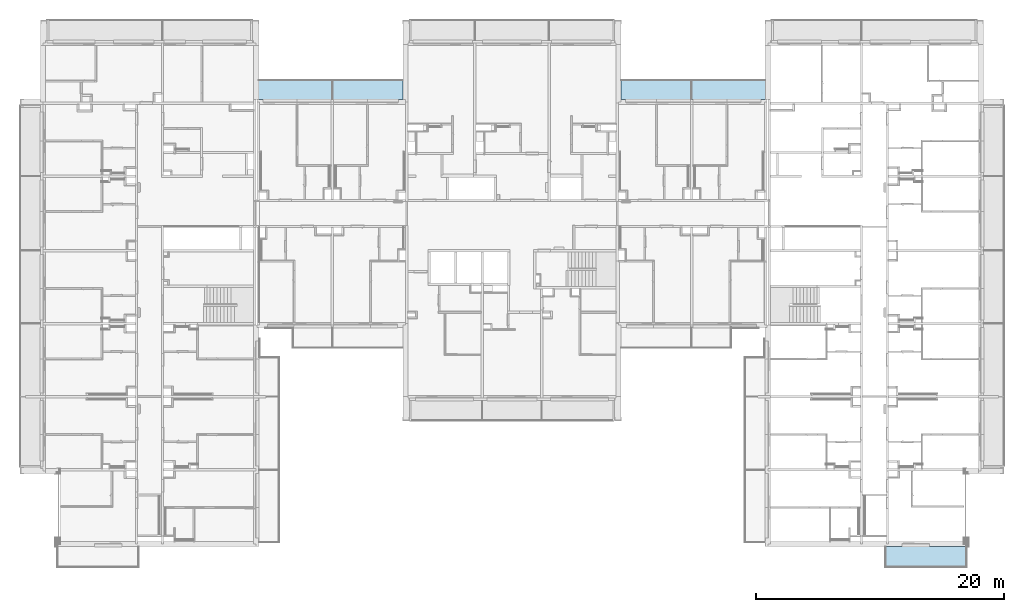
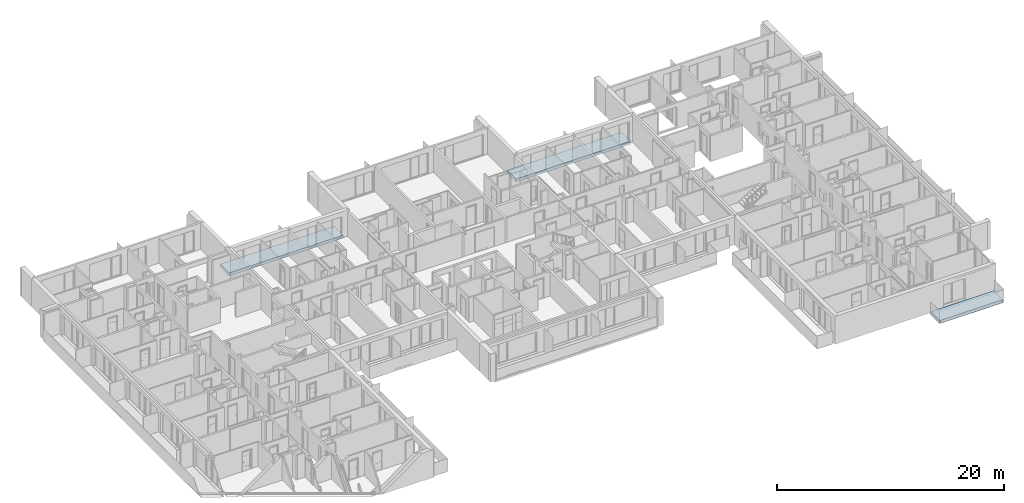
# One storey, part 2 of 66: 3 slabs.
"""IFC2X3 building model written with IfcOpenShell, lengths in millimetres."""

from ifc_helpers import new_model, entity, si_unit, converted_unit, derived_unit, money_unit, direction, frame, origin_with_axes, place, context, subcontext, project, spatial, faceted_brep, material, material_list, type_object, element, save


model = new_model("IFC2X3")

# Units and contexts
model_context = context("Model", 3, precision=0.01, world=origin_with_axes(), true_north=direction((0.34421633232, 0.938890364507)))
body_context = subcontext(model_context, "Body", "Model", "MODEL_VIEW")
ifc_project = project(units=[si_unit("LENGTHUNIT", "METRE", prefix="MILLI"), si_unit("AREAUNIT", "SQUARE_METRE"), si_unit("VOLUMEUNIT", "CUBIC_METRE"), converted_unit("PLANEANGLEUNIT", "DEGREE", entity("IfcPlaneAngleMeasure", 0.0174532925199), si_unit("PLANEANGLEUNIT", "RADIAN"), dimensions=[0, 0, 0, 0, 0, 0, 0]), si_unit("SOLIDANGLEUNIT", "STERADIAN"), money_unit("USD"), converted_unit("TIMEUNIT", "Year", entity("IfcTimeMeasure", 31556926.0), si_unit("TIMEUNIT", "SECOND"), dimensions=[0, 0, 1, 0, 0, 0, 0]), si_unit("MASSUNIT", "GRAM", prefix="KILO"), si_unit("THERMODYNAMICTEMPERATUREUNIT", "DEGREE_CELSIUS"), si_unit("LUMINOUSINTENSITYUNIT", "LUMEN"), si_unit("ENERGYUNIT", "JOULE", prefix="MEGA"), derived_unit("THERMALCONDUCTANCEUNIT", [(si_unit("POWERUNIT", "WATT"), 1), (si_unit("LENGTHUNIT", "METRE"), -1), (si_unit("THERMODYNAMICTEMPERATUREUNIT", "KELVIN"), -1)]), derived_unit("SPECIFICHEATCAPACITYUNIT", [(si_unit("ENERGYUNIT", "JOULE"), 1), (si_unit("MASSUNIT", "GRAM", prefix="KILO"), -1), (si_unit("THERMODYNAMICTEMPERATUREUNIT", "KELVIN"), -1)]), derived_unit("MASSDENSITYUNIT", [(si_unit("MASSUNIT", "GRAM", prefix="KILO"), 1), (si_unit("VOLUMEUNIT", "CUBIC_METRE"), -1)])], contexts=[model_context])

# Site, building, storey
site_placement = place(None, origin_with_axes())
site = spatial("IfcSite", under=ifc_project, at=site_placement, Name="USTRONIE MORSKIE", CompositionType="ELEMENT")
building_placement = place(site_placement, origin_with_axes())
building = spatial("IfcBuilding", under=site, at=building_placement, Name="Budynek", CompositionType="ELEMENT")
storey_placement = place(building_placement, frame((0.0, 0.0, 10000.0), z_axis=(0.0, 0.0, 1.0), x_axis=(1.0, 0.0, 0.0)))
storey = spatial("IfcBuildingStorey", under=building, at=storey_placement, Name="PIĘTRO 3", CompositionType="ELEMENT", Elevation=10000.0)

# Slabs
ifc_material_1 = material(Name="Płytki okładzinowe")
ifc_material_2 = material(Name="Pustka powietrzna")
ifc_material_3 = material(Name="Membrana przeciwwilgociowa")
ifc_material_4 = material(Name="Beton konstrukcyjny B25")
ifc_material_5 = material(Name="Laminat")
ifc_material_list = material_list([ifc_material_1, ifc_material_2, ifc_material_3, ifc_material_4, ifc_material_5])
slab_type = type_object("IfcSlabType", Name="Balkony na HALFENACH 330", PredefinedType="FLOOR")
slab_1_placement = place(storey_placement, frame((424467.920919, 707301.199036, -50.0), z_axis=(0.0, 0.0, 1.0), x_axis=(1.0, 0.0, 0.0)))
element("IfcSlab", 1, at=slab_1_placement, inside=storey, type_object=slab_type, material=ifc_material_list, Name="P3", PredefinedType="FLOOR", context=body_context, shape_type="Brep", body=[
    faceted_brep([(0.0, 1600.0, -25.0), (0.0, 1600.0, 0.0), (0.0, 0.0, 0.0), (0.0, 0.0, -25.0), (-6450.0, 1600.0, -25.0), (-6450.0, 1600.0, 0.0), (-6450.0, 0.0, 0.0), (-6450.0, 0.0, -25.0)], [[[0, 1, 2, 3]], [[4, 5, 1, 0]], [[2, 1, 5, 6]], [[3, 2, 6, 7]], [[3, 7, 4, 0]], [[7, 6, 5, 4]]]),
    faceted_brep([(0.0, 1600.0, -105.0), (0.0, 1600.0, -25.0), (0.0, 0.0, -25.0), (0.0, 0.0, -105.0), (-6450.0, 1600.0, -105.0), (-6450.0, 1600.0, -25.0), (-6450.0, 0.0, -25.0), (-6450.0, 0.0, -105.0)], [[[0, 1, 2, 3]], [[4, 5, 1, 0]], [[2, 1, 5, 6]], [[3, 2, 6, 7]], [[3, 7, 4, 0]], [[7, 6, 5, 4]]]),
    faceted_brep([(0.0, 1600.0, -110.0), (0.0, 1600.0, -105.0), (0.0, 0.0, -105.0), (0.0, 0.0, -110.0), (-6450.0, 1600.0, -110.0), (-6450.0, 1600.0, -105.0), (-6450.0, 0.0, -105.0), (-6450.0, 0.0, -110.0)], [[[0, 1, 2, 3]], [[4, 5, 1, 0]], [[2, 1, 5, 6]], [[3, 2, 6, 7]], [[3, 7, 4, 0]], [[7, 6, 5, 4]]]),
    faceted_brep([(0.0, 1600.0, -310.0), (0.0, 1600.0, -110.0), (0.0, 0.0, -110.0), (0.0, 0.0, -310.0), (-6450.0, 1600.0, -310.0), (-6450.0, 1600.0, -110.0), (-6450.0, 0.0, -110.0), (-6450.0, 0.0, -310.0)], [[[0, 1, 2, 3]], [[4, 5, 1, 0]], [[2, 1, 5, 6]], [[3, 2, 6, 7]], [[3, 7, 4, 0]], [[7, 6, 5, 4]]]),
    faceted_brep([(0.0, 1590.0, -330.0), (0.0, 1590.0, -310.0), (0.0, 0.0, -310.0), (0.0, 0.0, -330.0), (-6450.0, 1590.0, -310.0), (-6450.0, 1590.0, -330.0), (-6450.0, 0.0, -310.0), (-6450.0, 0.0, -330.0)], [[[0, 1, 2, 3]], [[4, 1, 0, 5]], [[1, 4, 6, 2]], [[6, 7, 3, 2]], [[5, 0, 3, 7]], [[4, 5, 7, 6]]]),
])
slab_2_placement = place(storey_placement, frame((367367.920919, 745001.199407, -50.0), z_axis=(0.0, 0.0, 1.0), x_axis=(1.0, 0.0, 0.0)))
element("IfcSlab", 2, at=slab_2_placement, inside=storey, type_object=slab_type, material=ifc_material_list, Name="P3", PredefinedType="FLOOR", context=body_context, shape_type="Brep", body=[
    faceted_brep([(0.0, 0.0, -25.0), (11650.0, 0.0132933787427, -25.0), (11650.0, 0.0132933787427, 0.0), (0.0, 0.0, 0.0), (0.0, 1599.99472777, -25.0), (11650.0, 1599.99472777, -25.0), (11650.0, 1599.99472777, 0.0), (0.0, 1599.99472777, 0.0)], [[[0, 1, 2, 3]], [[1, 0, 4, 5]], [[1, 5, 6, 2]], [[7, 3, 2, 6]], [[4, 0, 3, 7]], [[5, 4, 7, 6]]]),
    faceted_brep([(0.0, 0.0, -105.0), (11650.0, 0.0132933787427, -105.0), (11650.0, 0.0132933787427, -25.0), (0.0, 0.0, -25.0), (0.0, 1599.99472777, -105.0), (11650.0, 1599.99472777, -105.0), (11650.0, 1599.99472777, -25.0), (0.0, 1599.99472777, -25.0)], [[[0, 1, 2, 3]], [[1, 0, 4, 5]], [[1, 5, 6, 2]], [[7, 3, 2, 6]], [[4, 0, 3, 7]], [[5, 4, 7, 6]]]),
    faceted_brep([(0.0, 0.0, -110.0), (11650.0, 0.0132933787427, -110.0), (11650.0, 0.0132933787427, -105.0), (0.0, 0.0, -105.0), (0.0, 1599.99472777, -110.0), (11650.0, 1599.99472777, -110.0), (11650.0, 1599.99472777, -105.0), (0.0, 1599.99472777, -105.0)], [[[0, 1, 2, 3]], [[1, 0, 4, 5]], [[1, 5, 6, 2]], [[7, 3, 2, 6]], [[4, 0, 3, 7]], [[5, 4, 7, 6]]]),
    faceted_brep([(11650.0, 0.0132933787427, -310.0), (11650.0, 0.0132933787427, -110.0), (0.0, 0.0, -110.0), (0.0, 0.0, -310.0), (11650.0, 1599.99472777, -310.0), (11650.0, 1599.99472777, -110.0), (0.0, 1599.99472777, -110.0), (0.0, 1599.99472777, -310.0)], [[[0, 1, 2, 3]], [[4, 5, 1, 0]], [[2, 1, 5, 6]], [[3, 2, 6, 7]], [[3, 7, 4, 0]], [[7, 6, 5, 4]]]),
    faceted_brep([(9.99999999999, 1599.99472777, -330.0), (9.99999999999, 1599.99472777, -310.0), (11640.0, 1599.99472777, -310.0), (11640.0, 1599.99472777, -330.0), (9.99999999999, 9.99991460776, -310.0), (9.99999999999, 9.99991460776, -330.0), (11640.0, 9.99991460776, -310.0), (11640.0, 9.99991460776, -330.0)], [[[0, 1, 2, 3]], [[4, 1, 0, 5]], [[1, 4, 6, 2]], [[3, 2, 6, 7]], [[5, 0, 3, 7]], [[4, 5, 7, 6]]]),
])
slab_3_placement = place(storey_placement, frame((408267.920919, 745001.198663, -175.0), z_axis=(0.0, 0.0, 1.0), x_axis=(1.0, 0.0, 0.0)))
element("IfcSlab", 3, at=slab_3_placement, inside=storey, type_object=slab_type, material=ifc_material_list, Name="P3", PredefinedType="FLOOR", context=body_context, shape_type="Brep", body=[
    faceted_brep([(0.0, 0.0, -25.0), (0.0, 1599.99547233, -25.0), (0.0, 1599.99547233, 0.0), (0.0, 0.0, 0.0), (-11650.0, 0.01329337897, -25.0), (-11650.0, 1599.99547233, -25.0), (-11650.0, 1599.99547233, 0.0), (-11650.0, 0.01329337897, 0.0)], [[[0, 1, 2, 3]], [[1, 0, 4, 5]], [[1, 5, 6, 2]], [[7, 3, 2, 6]], [[4, 0, 3, 7]], [[5, 4, 7, 6]]]),
    faceted_brep([(0.0, 0.0, -105.0), (0.0, 1599.99547233, -105.0), (0.0, 1599.99547233, -25.0), (0.0, 0.0, -25.0), (-11650.0, 0.01329337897, -105.0), (-11650.0, 1599.99547233, -105.0), (-11650.0, 1599.99547233, -25.0), (-11650.0, 0.01329337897, -25.0)], [[[0, 1, 2, 3]], [[1, 0, 4, 5]], [[1, 5, 6, 2]], [[7, 3, 2, 6]], [[4, 0, 3, 7]], [[5, 4, 7, 6]]]),
    faceted_brep([(0.0, 0.0, -110.0), (0.0, 1599.99547233, -110.0), (0.0, 1599.99547233, -105.0), (0.0, 0.0, -105.0), (-11650.0, 0.01329337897, -110.0), (-11650.0, 1599.99547233, -110.0), (-11650.0, 1599.99547233, -105.0), (-11650.0, 0.01329337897, -105.0)], [[[0, 1, 2, 3]], [[1, 0, 4, 5]], [[1, 5, 6, 2]], [[7, 3, 2, 6]], [[4, 0, 3, 7]], [[5, 4, 7, 6]]]),
    faceted_brep([(0.0, 1599.99547233, -310.0), (0.0, 1599.99547233, -110.0), (0.0, 0.0, -110.0), (0.0, 0.0, -310.0), (-11650.0, 1599.99547233, -310.0), (-11650.0, 1599.99547233, -110.0), (-11650.0, 0.01329337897, -110.0), (-11650.0, 0.01329337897, -310.0)], [[[0, 1, 2, 3]], [[4, 5, 1, 0]], [[2, 1, 5, 6]], [[3, 2, 6, 7]], [[3, 7, 4, 0]], [[7, 6, 5, 4]]]),
    faceted_brep([(-11639.9996131, 10.0006591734, -310.0), (-10.0, 10.0006591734, -310.0), (-10.0, 1599.99547233, -310.0), (-11639.9996131, 1599.99547233, -310.0), (-10.0, 10.0006591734, -330.0), (-11639.9996131, 10.0006591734, -330.0), (-10.0, 1599.99547233, -330.0), (-11639.9996131, 1599.99547233, -330.0)], [[[0, 1, 2, 3]], [[4, 1, 0, 5]], [[1, 4, 6, 2]], [[2, 6, 7, 3]], [[5, 0, 3, 7]], [[4, 5, 7, 6]]]),
])

save(model, "model.ifc")
